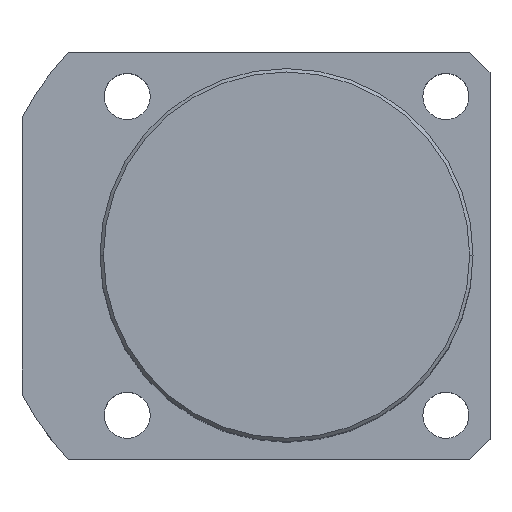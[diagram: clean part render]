
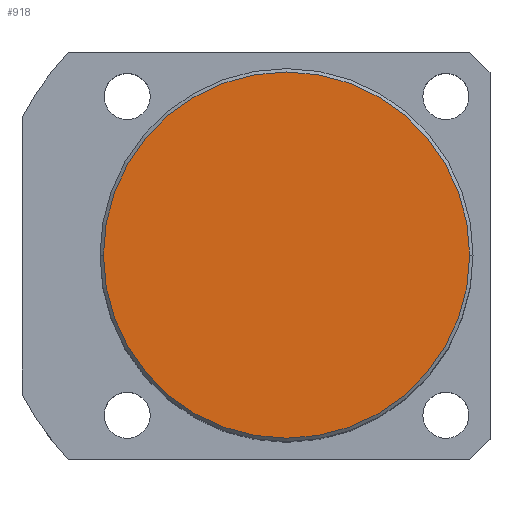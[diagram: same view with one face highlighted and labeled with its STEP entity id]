
A CAD part, top view. The second image highlights one B-rep face of the part: STEP entity #918.
In plain terms, the highlighted planar face has unit normal (0, 0, 1).
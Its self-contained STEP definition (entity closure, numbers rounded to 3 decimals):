
#40 = PLANE ( 'NONE',  #879 ) ;
#186 = DIRECTION ( 'NONE',  ( 1., 0., 0. ) ) ;
#296 = ORIENTED_EDGE ( 'NONE', *, *, #2046, .T. ) ;
#422 = CARTESIAN_POINT ( 'NONE',  ( 27., 0., 75. ) ) ;
#459 = CARTESIAN_POINT ( 'NONE',  ( 0., 0., 75. ) ) ;
#510 = DIRECTION ( 'NONE',  ( 0., 0., 1. ) ) ;
#521 = VERTEX_POINT ( 'NONE', #1164 ) ;
#567 = CIRCLE ( 'NONE', #1295, 27. ) ;
#712 = EDGE_LOOP ( 'NONE', ( #2076, #296 ) ) ;
#824 = CARTESIAN_POINT ( 'NONE',  ( 0., 0., 75. ) ) ;
#879 = AXIS2_PLACEMENT_3D ( 'NONE', #2116, #1462, #2100 ) ;
#918 = ADVANCED_FACE ( 'NONE', ( #2093 ), #40, .T. ) ;
#1138 = EDGE_CURVE ( 'NONE', #521, #1818, #567, .T. ) ;
#1164 = CARTESIAN_POINT ( 'NONE',  ( -27., 0., 75. ) ) ;
#1295 = AXIS2_PLACEMENT_3D ( 'NONE', #824, #510, #186 ) ;
#1396 = AXIS2_PLACEMENT_3D ( 'NONE', #459, #2135, #1655 ) ;
#1462 = DIRECTION ( 'NONE',  ( 0., 0., 1. ) ) ;
#1655 = DIRECTION ( 'NONE',  ( 1., 0., 0. ) ) ;
#1710 = CIRCLE ( 'NONE', #1396, 27. ) ;
#1818 = VERTEX_POINT ( 'NONE', #422 ) ;
#2046 = EDGE_CURVE ( 'NONE', #1818, #521, #1710, .T. ) ;
#2076 = ORIENTED_EDGE ( 'NONE', *, *, #1138, .T. ) ;
#2093 = FACE_OUTER_BOUND ( 'NONE', #712, .T. ) ;
#2100 = DIRECTION ( 'NONE',  ( 1., 0., 0. ) ) ;
#2116 = CARTESIAN_POINT ( 'NONE',  ( 0., 0., 75. ) ) ;
#2135 = DIRECTION ( 'NONE',  ( 0., 0., 1. ) ) ;
